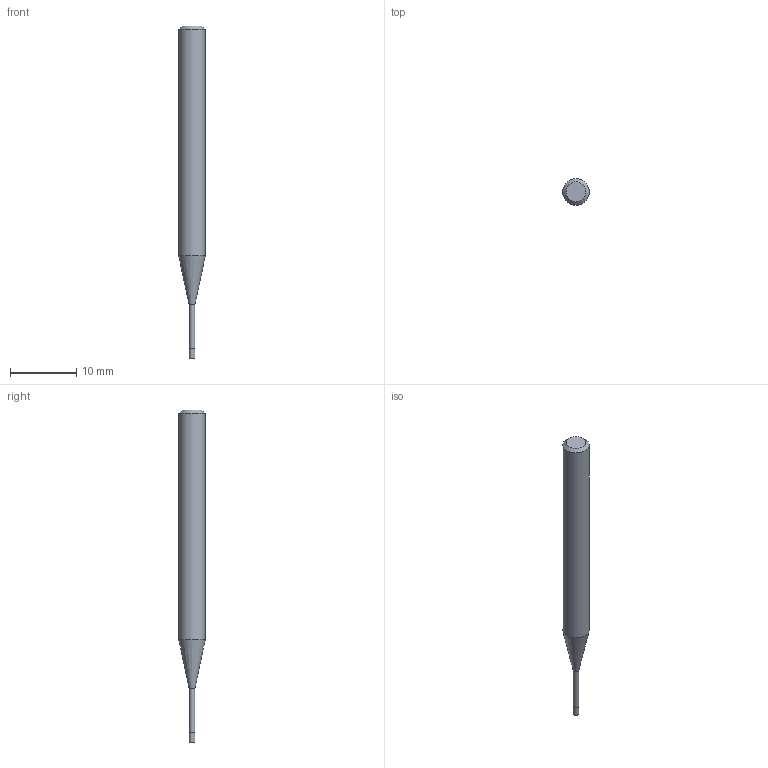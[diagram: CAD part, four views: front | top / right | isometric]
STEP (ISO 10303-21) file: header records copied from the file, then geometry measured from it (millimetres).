
FILE_DESCRIPTION((''),'2;1');
FILE_NAME('C:\Users\nsx150\AppData\Local\Temp\Mastercam 2021\17T8Q8S9EB\TEMP.step','2021-04-21T14:25:34',(''),(''),'STEP Write','Mastercam 2021 ... CNC Software, Inc.','');
FILE_SCHEMA(('AUTOMOTIVE_DESIGN'));
Length unit declared in the file: millimetre
Products named in the file (1): None
Bounding box: 4 x 4 x 50 mm (x, y, z)
Volume: 477.3 mm3; surface area: 524.8 mm2
Topology: 2 solids, 2 shells, 9 faces, 12 edges, 7 vertices
Faces by surface type: plane 4, cylinder 3, cone 2
Full cylindrical faces by diameter (mm): 0.86 x1, 0.9 x1, 4 x1
Entity records: 211 total; most frequent: DIRECTION 36, CARTESIAN_POINT 25, AXIS2_PLACEMENT_3D 18, ORIENTED_EDGE 14, EDGE_LOOP 14, STYLED_ITEM 12, ADVANCED_FACE 9, FACE_BOUND 8
